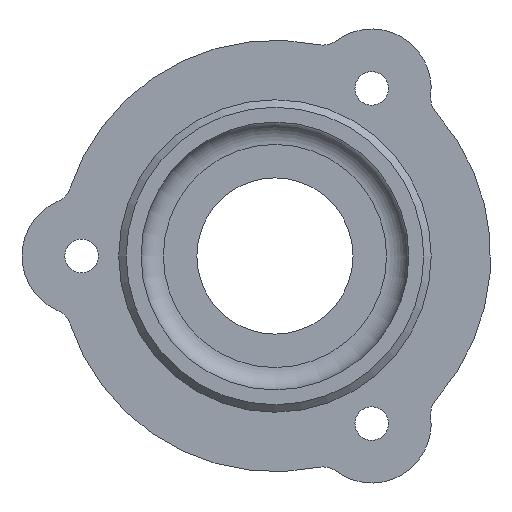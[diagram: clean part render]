
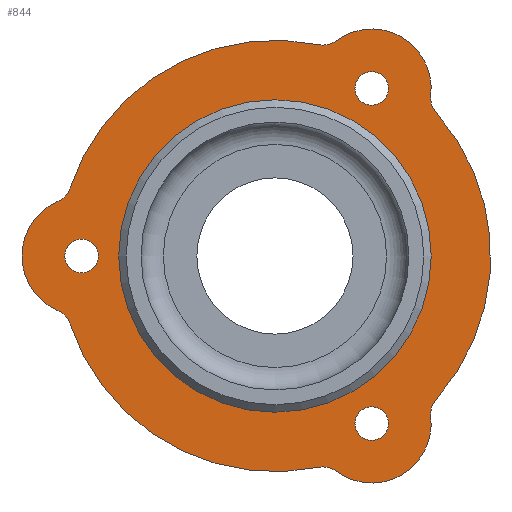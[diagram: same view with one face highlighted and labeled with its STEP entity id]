
A CAD part, left-side view. The second image highlights one B-rep face of the part: STEP entity #844.
In plain terms, the highlighted planar face has unit normal (-1, 0, 0).
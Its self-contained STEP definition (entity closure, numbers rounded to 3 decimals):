
#32=FACE_BOUND('',#218,.T.);
#33=FACE_BOUND('',#219,.T.);
#34=FACE_BOUND('',#220,.T.);
#35=FACE_BOUND('',#221,.T.);
#44=PLANE('',#998);
#160=FACE_OUTER_BOUND('',#217,.T.);
#217=EDGE_LOOP('',(#726,#727,#728,#729,#730,#731,#732,#733,#734,#735,#736,
#737));
#218=EDGE_LOOP('',(#738));
#219=EDGE_LOOP('',(#739));
#220=EDGE_LOOP('',(#740));
#221=EDGE_LOOP('',(#741));
#279=CIRCLE('',#938,29.);
#280=CIRCLE('',#940,3.);
#281=CIRCLE('',#942,8.);
#282=CIRCLE('',#944,3.);
#283=CIRCLE('',#946,29.);
#284=CIRCLE('',#948,3.);
#296=CIRCLE('',#964,2.25);
#299=CIRCLE('',#970,2.25);
#303=CIRCLE('',#977,3.);
#304=CIRCLE('',#979,8.);
#305=CIRCLE('',#981,3.);
#306=CIRCLE('',#983,29.);
#309=CIRCLE('',#989,2.25);
#313=CIRCLE('',#995,8.);
#314=CIRCLE('',#997,3.);
#315=CIRCLE('',#999,21.);
#358=VERTEX_POINT('',#1429);
#359=VERTEX_POINT('',#1431);
#360=VERTEX_POINT('',#1435);
#361=VERTEX_POINT('',#1439);
#362=VERTEX_POINT('',#1443);
#363=VERTEX_POINT('',#1447);
#364=VERTEX_POINT('',#1451);
#378=VERTEX_POINT('',#1513);
#383=VERTEX_POINT('',#1556);
#386=VERTEX_POINT('',#1575);
#387=VERTEX_POINT('',#1577);
#388=VERTEX_POINT('',#1581);
#389=VERTEX_POINT('',#1587);
#393=VERTEX_POINT('',#1621);
#396=VERTEX_POINT('',#1632);
#397=VERTEX_POINT('',#1638);
#453=EDGE_CURVE('',#358,#359,#279,.T.);
#456=EDGE_CURVE('',#360,#358,#280,.T.);
#458=EDGE_CURVE('',#361,#360,#281,.T.);
#460=EDGE_CURVE('',#362,#361,#282,.T.);
#462=EDGE_CURVE('',#363,#362,#283,.T.);
#464=EDGE_CURVE('',#364,#363,#284,.T.);
#481=EDGE_CURVE('',#378,#378,#296,.T.);
#489=EDGE_CURVE('',#383,#383,#299,.T.);
#495=EDGE_CURVE('',#386,#387,#303,.T.);
#498=EDGE_CURVE('',#388,#386,#304,.T.);
#499=EDGE_CURVE('',#359,#388,#305,.T.);
#500=EDGE_CURVE('',#387,#389,#306,.T.);
#508=EDGE_CURVE('',#393,#393,#309,.T.);
#514=EDGE_CURVE('',#396,#364,#313,.T.);
#515=EDGE_CURVE('',#389,#396,#314,.T.);
#516=EDGE_CURVE('',#397,#397,#315,.T.);
#726=ORIENTED_EDGE('',*,*,#456,.F.);
#727=ORIENTED_EDGE('',*,*,#458,.F.);
#728=ORIENTED_EDGE('',*,*,#460,.F.);
#729=ORIENTED_EDGE('',*,*,#462,.F.);
#730=ORIENTED_EDGE('',*,*,#464,.F.);
#731=ORIENTED_EDGE('',*,*,#514,.F.);
#732=ORIENTED_EDGE('',*,*,#515,.F.);
#733=ORIENTED_EDGE('',*,*,#500,.F.);
#734=ORIENTED_EDGE('',*,*,#495,.F.);
#735=ORIENTED_EDGE('',*,*,#498,.F.);
#736=ORIENTED_EDGE('',*,*,#499,.F.);
#737=ORIENTED_EDGE('',*,*,#453,.F.);
#738=ORIENTED_EDGE('',*,*,#481,.T.);
#739=ORIENTED_EDGE('',*,*,#489,.T.);
#740=ORIENTED_EDGE('',*,*,#516,.T.);
#741=ORIENTED_EDGE('',*,*,#508,.T.);
#844=ADVANCED_FACE('',(#160,#32,#33,#34,#35),#44,.T.);
#938=AXIS2_PLACEMENT_3D('',#1432,#1145,#1146);
#940=AXIS2_PLACEMENT_3D('',#1437,#1151,#1152);
#942=AXIS2_PLACEMENT_3D('',#1441,#1156,#1157);
#944=AXIS2_PLACEMENT_3D('',#1445,#1161,#1162);
#946=AXIS2_PLACEMENT_3D('',#1449,#1166,#1167);
#948=AXIS2_PLACEMENT_3D('',#1453,#1171,#1172);
#964=AXIS2_PLACEMENT_3D('',#1515,#1205,#1206);
#970=AXIS2_PLACEMENT_3D('',#1558,#1219,#1220);
#977=AXIS2_PLACEMENT_3D('',#1578,#1234,#1235);
#979=AXIS2_PLACEMENT_3D('',#1583,#1240,#1241);
#981=AXIS2_PLACEMENT_3D('',#1585,#1244,#1245);
#983=AXIS2_PLACEMENT_3D('',#1588,#1248,#1249);
#989=AXIS2_PLACEMENT_3D('',#1623,#1263,#1264);
#995=AXIS2_PLACEMENT_3D('',#1634,#1277,#1278);
#997=AXIS2_PLACEMENT_3D('',#1636,#1281,#1282);
#998=AXIS2_PLACEMENT_3D('',#1637,#1283,#1284);
#999=AXIS2_PLACEMENT_3D('',#1639,#1285,#1286);
#1145=DIRECTION('center_axis',(1.,0.,0.));
#1146=DIRECTION('ref_axis',(0.,0.,-1.));
#1151=DIRECTION('center_axis',(-1.,0.,0.));
#1152=DIRECTION('ref_axis',(0.,0.954,-0.301));
#1156=DIRECTION('center_axis',(1.,0.,0.));
#1157=DIRECTION('ref_axis',(0.,0.866,0.5));
#1161=DIRECTION('center_axis',(-1.,0.,0.));
#1162=DIRECTION('ref_axis',(0.,-0.217,-0.976));
#1166=DIRECTION('center_axis',(1.,0.,0.));
#1167=DIRECTION('ref_axis',(0.,0.,-1.));
#1171=DIRECTION('center_axis',(-1.,0.,0.));
#1172=DIRECTION('ref_axis',(0.,-0.737,-0.676));
#1205=DIRECTION('center_axis',(1.,0.,0.));
#1206=DIRECTION('ref_axis',(0.,-0.866,0.5));
#1219=DIRECTION('center_axis',(1.,0.,0.));
#1220=DIRECTION('ref_axis',(0.,0.866,0.5));
#1234=DIRECTION('center_axis',(-1.,0.,0.));
#1235=DIRECTION('ref_axis',(0.,-0.217,0.976));
#1240=DIRECTION('center_axis',(1.,0.,0.));
#1241=DIRECTION('ref_axis',(0.,-0.866,0.5));
#1244=DIRECTION('center_axis',(-1.,0.,0.));
#1245=DIRECTION('ref_axis',(0.,0.954,0.301));
#1248=DIRECTION('center_axis',(1.,0.,0.));
#1249=DIRECTION('ref_axis',(0.,0.,-1.));
#1263=DIRECTION('center_axis',(1.,0.,0.));
#1264=DIRECTION('ref_axis',(0.,0.,-1.));
#1277=DIRECTION('center_axis',(1.,0.,0.));
#1278=DIRECTION('ref_axis',(0.,0.,-1.));
#1281=DIRECTION('center_axis',(-1.,0.,0.));
#1282=DIRECTION('ref_axis',(0.,-0.737,0.676));
#1283=DIRECTION('center_axis',(-1.,0.,0.));
#1284=DIRECTION('ref_axis',(0.,0.,1.));
#1285=DIRECTION('center_axis',(1.,0.,0.));
#1286=DIRECTION('ref_axis',(0.,0.,-1.));
#1429=CARTESIAN_POINT('',(4.,-21.684,19.257));
#1431=CARTESIAN_POINT('',(4.,-21.684,-19.257));
#1432=CARTESIAN_POINT('Origin',(4.,0.,0.));
#1435=CARTESIAN_POINT('',(4.,-20.947,21.595));
#1437=CARTESIAN_POINT('Origin',(4.,-23.927,21.249));
#1439=CARTESIAN_POINT('',(4.,-8.228,28.938));
#1441=CARTESIAN_POINT('Origin',(4.,-13.,22.517));
#1443=CARTESIAN_POINT('',(4.,-5.835,28.407));
#1445=CARTESIAN_POINT('Origin',(4.,-6.439,31.346));
#1447=CARTESIAN_POINT('',(4.,27.519,9.15));
#1449=CARTESIAN_POINT('Origin',(4.,0.,0.));
#1451=CARTESIAN_POINT('',(4.,29.175,7.343));
#1453=CARTESIAN_POINT('Origin',(4.,30.365,10.097));
#1513=CARTESIAN_POINT('',(4.,-11.051,-23.642));
#1515=CARTESIAN_POINT('Origin',(4.,-13.,-22.517));
#1556=CARTESIAN_POINT('',(4.,-14.949,21.392));
#1558=CARTESIAN_POINT('Origin',(4.,-13.,22.517));
#1575=CARTESIAN_POINT('',(4.,-8.228,-28.938));
#1577=CARTESIAN_POINT('',(4.,-5.835,-28.407));
#1578=CARTESIAN_POINT('Origin',(4.,-6.439,-31.346));
#1581=CARTESIAN_POINT('',(4.,-20.947,-21.595));
#1583=CARTESIAN_POINT('Origin',(4.,-13.,-22.517));
#1585=CARTESIAN_POINT('Origin',(4.,-23.927,-21.249));
#1587=CARTESIAN_POINT('',(4.,27.519,-9.15));
#1588=CARTESIAN_POINT('Origin',(4.,0.,0.));
#1621=CARTESIAN_POINT('',(4.,26.,2.25));
#1623=CARTESIAN_POINT('Origin',(4.,26.,0.));
#1632=CARTESIAN_POINT('',(4.,29.175,-7.343));
#1634=CARTESIAN_POINT('Origin',(4.,26.,0.));
#1636=CARTESIAN_POINT('Origin',(4.,30.365,-10.097));
#1637=CARTESIAN_POINT('Origin',(4.,29.,0.));
#1638=CARTESIAN_POINT('',(4.,-21.,0.));
#1639=CARTESIAN_POINT('Origin',(4.,0.,0.));
